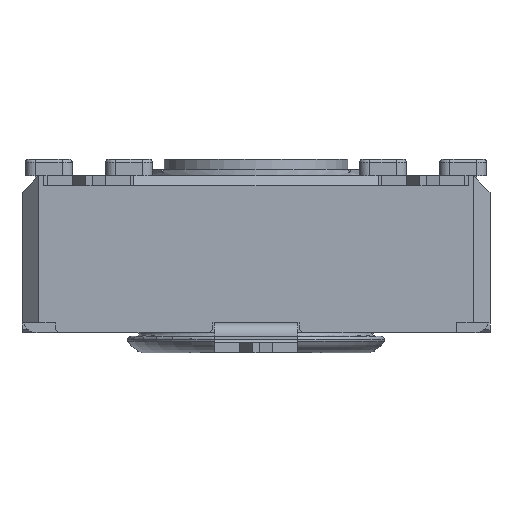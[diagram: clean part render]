
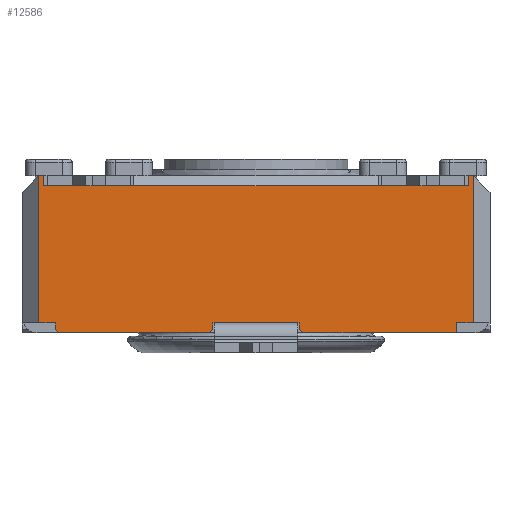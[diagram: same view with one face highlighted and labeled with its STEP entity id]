
A CAD part, front view. The second image highlights one B-rep face of the part: STEP entity #12586.
In plain terms, the highlighted planar face has unit normal (0, -1, 0).
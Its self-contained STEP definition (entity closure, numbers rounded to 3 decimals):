
#655=FACE_OUTER_BOUND('',#1325,.T.);
#1325=EDGE_LOOP('',(#8374,#8375,#8376,#8377,#8378,#8379,#8380,#8381,#8382,
#8383,#8384,#8385,#8386,#8387,#8388,#8389,#8390,#8391,#8392,#8393,#8394,
#8395,#8396,#8397,#8398,#8399,#8400));
#2058=LINE('',#18002,#3548);
#2070=LINE('',#18034,#3560);
#2075=LINE('',#18044,#3565);
#2131=LINE('',#18160,#3621);
#2134=LINE('',#18166,#3624);
#2160=LINE('',#18230,#3650);
#2161=LINE('',#18232,#3651);
#2162=LINE('',#18234,#3652);
#2163=LINE('',#18235,#3653);
#2164=LINE('',#18237,#3654);
#2165=LINE('',#18239,#3655);
#2166=LINE('',#18241,#3656);
#2167=LINE('',#18243,#3657);
#2168=LINE('',#18244,#3658);
#2169=LINE('',#18246,#3659);
#2170=LINE('',#18248,#3660);
#2171=LINE('',#18250,#3661);
#2172=LINE('',#18252,#3662);
#2173=LINE('',#18254,#3663);
#2174=LINE('',#18256,#3664);
#2175=LINE('',#18258,#3665);
#2176=LINE('',#18260,#3666);
#2177=LINE('',#18262,#3667);
#2178=LINE('',#18263,#3668);
#2179=LINE('',#18265,#3669);
#2180=LINE('',#18267,#3670);
#2181=LINE('',#18268,#3671);
#3548=VECTOR('',#14444,10.);
#3560=VECTOR('',#14480,10.);
#3565=VECTOR('',#14485,10.);
#3621=VECTOR('',#14553,10.);
#3624=VECTOR('',#14558,10.);
#3650=VECTOR('',#14606,10.);
#3651=VECTOR('',#14607,10.);
#3652=VECTOR('',#14608,10.);
#3653=VECTOR('',#14609,10.);
#3654=VECTOR('',#14610,10.);
#3655=VECTOR('',#14611,10.);
#3656=VECTOR('',#14612,10.);
#3657=VECTOR('',#14613,10.);
#3658=VECTOR('',#14614,10.);
#3659=VECTOR('',#14615,10.);
#3660=VECTOR('',#14616,10.);
#3661=VECTOR('',#14617,10.);
#3662=VECTOR('',#14618,10.);
#3663=VECTOR('',#14619,10.);
#3664=VECTOR('',#14620,10.);
#3665=VECTOR('',#14621,10.);
#3666=VECTOR('',#14622,10.);
#3667=VECTOR('',#14623,10.);
#3668=VECTOR('',#14624,10.);
#3669=VECTOR('',#14625,10.);
#3670=VECTOR('',#14626,10.);
#3671=VECTOR('',#14627,10.);
#5013=VERTEX_POINT('',#17981);
#5021=VERTEX_POINT('',#18001);
#5029=VERTEX_POINT('',#18033);
#5033=VERTEX_POINT('',#18041);
#5034=VERTEX_POINT('',#18043);
#5087=VERTEX_POINT('',#18157);
#5088=VERTEX_POINT('',#18159);
#5089=VERTEX_POINT('',#18163);
#5090=VERTEX_POINT('',#18165);
#5117=VERTEX_POINT('',#18229);
#5118=VERTEX_POINT('',#18231);
#5119=VERTEX_POINT('',#18233);
#5120=VERTEX_POINT('',#18236);
#5121=VERTEX_POINT('',#18238);
#5122=VERTEX_POINT('',#18240);
#5123=VERTEX_POINT('',#18242);
#5124=VERTEX_POINT('',#18245);
#5125=VERTEX_POINT('',#18247);
#5126=VERTEX_POINT('',#18249);
#5127=VERTEX_POINT('',#18251);
#5128=VERTEX_POINT('',#18253);
#5129=VERTEX_POINT('',#18255);
#5130=VERTEX_POINT('',#18257);
#5131=VERTEX_POINT('',#18259);
#5132=VERTEX_POINT('',#18261);
#5133=VERTEX_POINT('',#18264);
#5134=VERTEX_POINT('',#18266);
#6270=EDGE_CURVE('',#5013,#5021,#2058,.T.);
#6286=EDGE_CURVE('',#5029,#5013,#2070,.T.);
#6291=EDGE_CURVE('',#5034,#5033,#2075,.T.);
#6349=EDGE_CURVE('',#5088,#5087,#2131,.T.);
#6352=EDGE_CURVE('',#5090,#5089,#2134,.T.);
#6384=EDGE_CURVE('',#5087,#5117,#2160,.T.);
#6385=EDGE_CURVE('',#5117,#5118,#2161,.T.);
#6386=EDGE_CURVE('',#5118,#5119,#2162,.T.);
#6387=EDGE_CURVE('',#5034,#5119,#2163,.T.);
#6388=EDGE_CURVE('',#5033,#5120,#2164,.T.);
#6389=EDGE_CURVE('',#5121,#5120,#2165,.T.);
#6390=EDGE_CURVE('',#5121,#5122,#2166,.T.);
#6391=EDGE_CURVE('',#5123,#5122,#2167,.T.);
#6392=EDGE_CURVE('',#5029,#5123,#2168,.T.);
#6393=EDGE_CURVE('',#5021,#5124,#2169,.T.);
#6394=EDGE_CURVE('',#5124,#5125,#2170,.T.);
#6395=EDGE_CURVE('',#5126,#5125,#2171,.T.);
#6396=EDGE_CURVE('',#5126,#5127,#2172,.T.);
#6397=EDGE_CURVE('',#5127,#5128,#2173,.T.);
#6398=EDGE_CURVE('',#5128,#5129,#2174,.T.);
#6399=EDGE_CURVE('',#5130,#5129,#2175,.T.);
#6400=EDGE_CURVE('',#5130,#5131,#2176,.T.);
#6401=EDGE_CURVE('',#5131,#5132,#2177,.T.);
#6402=EDGE_CURVE('',#5132,#5090,#2178,.T.);
#6403=EDGE_CURVE('',#5089,#5133,#2179,.T.);
#6404=EDGE_CURVE('',#5134,#5133,#2180,.T.);
#6405=EDGE_CURVE('',#5134,#5088,#2181,.T.);
#8374=ORIENTED_EDGE('',*,*,#6349,.T.);
#8375=ORIENTED_EDGE('',*,*,#6384,.T.);
#8376=ORIENTED_EDGE('',*,*,#6385,.T.);
#8377=ORIENTED_EDGE('',*,*,#6386,.T.);
#8378=ORIENTED_EDGE('',*,*,#6387,.F.);
#8379=ORIENTED_EDGE('',*,*,#6291,.T.);
#8380=ORIENTED_EDGE('',*,*,#6388,.T.);
#8381=ORIENTED_EDGE('',*,*,#6389,.F.);
#8382=ORIENTED_EDGE('',*,*,#6390,.T.);
#8383=ORIENTED_EDGE('',*,*,#6391,.F.);
#8384=ORIENTED_EDGE('',*,*,#6392,.F.);
#8385=ORIENTED_EDGE('',*,*,#6286,.T.);
#8386=ORIENTED_EDGE('',*,*,#6270,.T.);
#8387=ORIENTED_EDGE('',*,*,#6393,.T.);
#8388=ORIENTED_EDGE('',*,*,#6394,.T.);
#8389=ORIENTED_EDGE('',*,*,#6395,.F.);
#8390=ORIENTED_EDGE('',*,*,#6396,.T.);
#8391=ORIENTED_EDGE('',*,*,#6397,.T.);
#8392=ORIENTED_EDGE('',*,*,#6398,.T.);
#8393=ORIENTED_EDGE('',*,*,#6399,.F.);
#8394=ORIENTED_EDGE('',*,*,#6400,.T.);
#8395=ORIENTED_EDGE('',*,*,#6401,.T.);
#8396=ORIENTED_EDGE('',*,*,#6402,.T.);
#8397=ORIENTED_EDGE('',*,*,#6352,.T.);
#8398=ORIENTED_EDGE('',*,*,#6403,.T.);
#8399=ORIENTED_EDGE('',*,*,#6404,.F.);
#8400=ORIENTED_EDGE('',*,*,#6405,.T.);
#11869=PLANE('',#13302);
#12586=ADVANCED_FACE('',(#655),#11869,.T.);
#13302=AXIS2_PLACEMENT_3D('',#18228,#14604,#14605);
#14444=DIRECTION('',(1.,0.,0.));
#14480=DIRECTION('',(1.,0.,0.));
#14485=DIRECTION('',(1.,0.,0.));
#14553=DIRECTION('',(-1.,0.,0.));
#14558=DIRECTION('',(-1.,0.,0.));
#14604=DIRECTION('center_axis',(0.,-1.,0.));
#14605=DIRECTION('ref_axis',(0.,0.,-1.));
#14606=DIRECTION('',(-1.,0.,0.));
#14607=DIRECTION('',(0.,0.,1.));
#14608=DIRECTION('',(-1.,0.,0.));
#14609=DIRECTION('',(0.,0.,1.));
#14610=DIRECTION('',(0.,0.,-1.));
#14611=DIRECTION('',(-0.707,0.,0.707));
#14612=DIRECTION('',(1.,0.,0.));
#14613=DIRECTION('',(-0.707,0.,-0.707));
#14614=DIRECTION('',(0.,0.,-1.));
#14615=DIRECTION('',(1.,0.,0.));
#14616=DIRECTION('',(0.,0.,-1.));
#14617=DIRECTION('',(-0.707,0.,0.707));
#14618=DIRECTION('',(1.,0.,0.));
#14619=DIRECTION('',(0.,0.,1.));
#14620=DIRECTION('',(1.,0.,0.));
#14621=DIRECTION('',(0.,0.,-1.));
#14622=DIRECTION('',(-1.,0.,0.));
#14623=DIRECTION('',(0.,0.,-1.));
#14624=DIRECTION('',(-1.,0.,0.));
#14625=DIRECTION('',(-1.,0.,0.));
#14626=DIRECTION('',(1.,0.,0.));
#14627=DIRECTION('',(-1.,0.,0.));
#17981=CARTESIAN_POINT('',(-8.717,-9.898,0.));
#18001=CARTESIAN_POINT('',(-6.217,-9.898,0.));
#18002=CARTESIAN_POINT('',(-14.467,-9.898,0.));
#18033=CARTESIAN_POINT('',(-8.767,-9.898,0.));
#18034=CARTESIAN_POINT('',(-14.467,-9.898,0.));
#18041=CARTESIAN_POINT('',(-13.467,-9.898,0.));
#18043=CARTESIAN_POINT('',(-13.967,-9.898,0.));
#18044=CARTESIAN_POINT('',(-7.245,-9.898,0.));
#18157=CARTESIAN_POINT('',(-13.717,-9.898,4.1));
#18159=CARTESIAN_POINT('',(-11.217,-9.898,4.1));
#18160=CARTESIAN_POINT('',(-6.467,-9.898,4.1));
#18163=CARTESIAN_POINT('',(-3.717,-9.898,4.1));
#18165=CARTESIAN_POINT('',(-1.217,-9.898,4.1));
#18166=CARTESIAN_POINT('',(-1.467,-9.898,4.1));
#18228=CARTESIAN_POINT('Origin',(-0.467,-9.898,0.));
#18229=CARTESIAN_POINT('',(-13.817,-9.898,4.1));
#18230=CARTESIAN_POINT('',(-3.944,-9.898,4.1));
#18231=CARTESIAN_POINT('',(-13.817,-9.898,4.4));
#18232=CARTESIAN_POINT('',(-13.817,-9.898,2.2));
#18233=CARTESIAN_POINT('',(-13.967,-9.898,4.4));
#18234=CARTESIAN_POINT('',(-14.467,-9.898,4.4));
#18235=CARTESIAN_POINT('',(-13.967,-9.898,0.));
#18236=CARTESIAN_POINT('',(-13.467,-9.898,-0.2));
#18237=CARTESIAN_POINT('',(-13.467,-9.898,-0.15));
#18238=CARTESIAN_POINT('',(-13.367,-9.898,-0.3));
#18239=CARTESIAN_POINT('',(-10.242,-9.898,-3.425));
#18240=CARTESIAN_POINT('',(-8.867,-9.898,-0.3));
#18241=CARTESIAN_POINT('',(-0.467,-9.898,-0.3));
#18242=CARTESIAN_POINT('',(-8.767,-9.898,-0.2));
#18243=CARTESIAN_POINT('',(-6.667,-9.898,1.9));
#18244=CARTESIAN_POINT('',(-8.767,-9.898,0.));
#18245=CARTESIAN_POINT('',(-6.167,-9.898,0.));
#18246=CARTESIAN_POINT('',(-14.467,-9.898,0.));
#18247=CARTESIAN_POINT('',(-6.167,-9.898,-0.2));
#18248=CARTESIAN_POINT('',(-6.167,-9.898,0.));
#18249=CARTESIAN_POINT('',(-6.067,-9.898,-0.3));
#18250=CARTESIAN_POINT('',(-4.767,-9.898,-1.6));
#18251=CARTESIAN_POINT('',(-1.467,-9.898,-0.3));
#18252=CARTESIAN_POINT('',(-0.467,-9.898,-0.3));
#18253=CARTESIAN_POINT('',(-1.467,-9.898,0.));
#18254=CARTESIAN_POINT('',(-1.467,-9.898,-0.15));
#18255=CARTESIAN_POINT('',(-0.967,-9.898,0.));
#18256=CARTESIAN_POINT('',(-0.646,-9.898,0.));
#18257=CARTESIAN_POINT('',(-0.967,-9.898,4.4));
#18258=CARTESIAN_POINT('',(-0.967,-9.898,0.));
#18259=CARTESIAN_POINT('',(-1.117,-9.898,4.4));
#18260=CARTESIAN_POINT('',(-14.467,-9.898,4.4));
#18261=CARTESIAN_POINT('',(-1.117,-9.898,4.1));
#18262=CARTESIAN_POINT('',(-1.117,-9.898,2.2));
#18263=CARTESIAN_POINT('',(-1.862,-9.898,4.1));
#18264=CARTESIAN_POINT('',(-3.817,-9.898,4.1));
#18265=CARTESIAN_POINT('',(-1.862,-9.898,4.1));
#18266=CARTESIAN_POINT('',(-11.117,-9.898,4.1));
#18267=CARTESIAN_POINT('',(-3.967,-9.898,4.1));
#18268=CARTESIAN_POINT('',(-3.944,-9.898,4.1));
